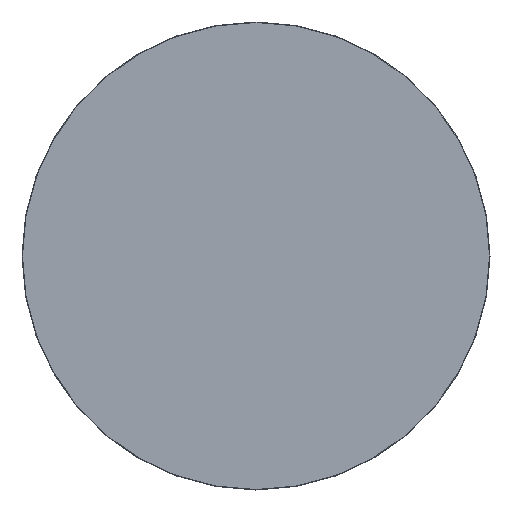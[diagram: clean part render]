
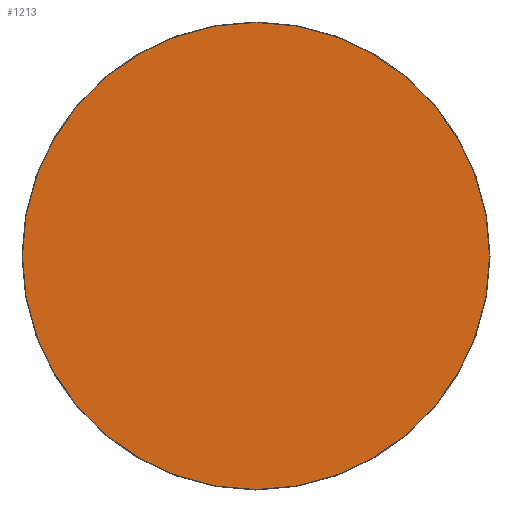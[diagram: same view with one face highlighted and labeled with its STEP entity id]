
A CAD part, left-side view. The second image highlights one B-rep face of the part: STEP entity #1213.
In plain terms, the highlighted planar face has unit normal (-1, 0, 0).
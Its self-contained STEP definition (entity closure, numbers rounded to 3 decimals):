
#29 = EDGE_CURVE ( 'NONE', #958, #812, #2012, .T. ) ;
#188 = DIRECTION ( 'NONE',  ( 0., 0., 1. ) ) ;
#220 = CARTESIAN_POINT ( 'NONE',  ( 0., 0., 0. ) ) ;
#417 = DIRECTION ( 'NONE',  ( 0., 0., -1. ) ) ;
#444 = DIRECTION ( 'NONE',  ( 0., 0., 1. ) ) ;
#585 = CARTESIAN_POINT ( 'NONE',  ( 0., 0., 0. ) ) ;
#651 = CARTESIAN_POINT ( 'NONE',  ( 0., 0., -149.7 ) ) ;
#746 = FACE_OUTER_BOUND ( 'NONE', #1323, .T. ) ;
#765 = CARTESIAN_POINT ( 'NONE',  ( 0., 0., 149.7 ) ) ;
#812 = VERTEX_POINT ( 'NONE', #765 ) ;
#902 = CARTESIAN_POINT ( 'NONE',  ( 0., 0., 0. ) ) ;
#958 = VERTEX_POINT ( 'NONE', #651 ) ;
#1023 = AXIS2_PLACEMENT_3D ( 'NONE', #585, #1278, #444 ) ;
#1171 = AXIS2_PLACEMENT_3D ( 'NONE', #220, #1566, #417 ) ;
#1202 = DIRECTION ( 'NONE',  ( -1., 0., 0. ) ) ;
#1213 = ADVANCED_FACE ( 'NONE', ( #746 ), #2050, .F. ) ;
#1278 = DIRECTION ( 'NONE',  ( -1., 0., 0. ) ) ;
#1323 = EDGE_LOOP ( 'NONE', ( #1723, #1712 ) ) ;
#1377 = AXIS2_PLACEMENT_3D ( 'NONE', #902, #1202, #188 ) ;
#1467 = CIRCLE ( 'NONE', #1377, 149.7 ) ;
#1566 = DIRECTION ( 'NONE',  ( 1., 0., 0. ) ) ;
#1712 = ORIENTED_EDGE ( 'NONE', *, *, #2073, .T. ) ;
#1723 = ORIENTED_EDGE ( 'NONE', *, *, #29, .T. ) ;
#2012 = CIRCLE ( 'NONE', #1023, 149.7 ) ;
#2050 = PLANE ( 'NONE',  #1171 ) ;
#2073 = EDGE_CURVE ( 'NONE', #812, #958, #1467, .T. ) ;
